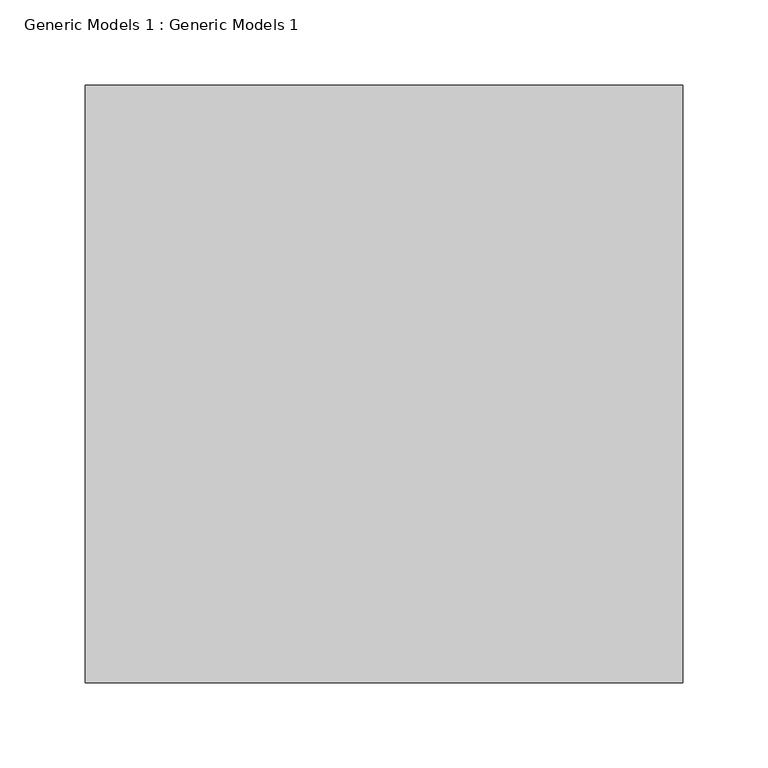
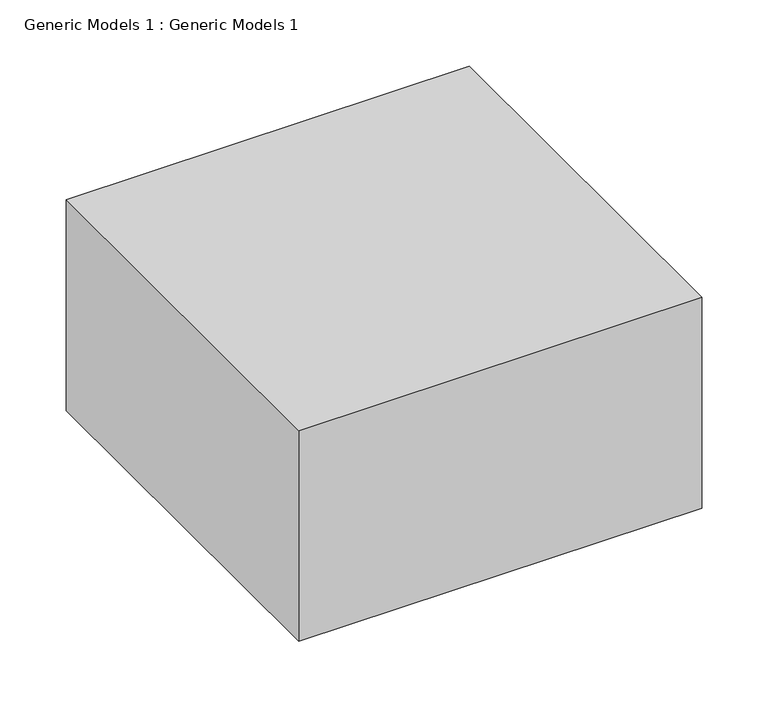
"""IFC4 building model written with IfcOpenShell, lengths in millimetres: proxy geometry, Generic Models 1 : Generic Models 1."""

from ifc_helpers import new_model, si_unit, frame, origin, place, context, project, spatial, polyline, outline, extrude, source, transform, mapped, element, save


def generic_models_1_generic_models_1_3ff43404(model_context):
    return source(origin(), model_context, "Body", "SweptSolid", [
        extrude(outline(polyline([(2982.5234079, 6181.6620874), (2982.5234079, 5831.6620874), (2632.5234079, 5831.6620874), (2632.5234079, 6181.6620874), (2982.5234079, 6181.6620874)])), frame((0.0, 0.0, 2379.3262124), z_axis=(0.0, 0.0, 1.0), x_axis=(1.0, 0.0, 0.0)), (0.0, 0.0, 1.0), 193.6737876),
    ])


if __name__ == "__main__":
    model = new_model("IFC4")
    model_context = context("Model", 3, world=origin())
    ifc_project = project(units=[si_unit("LENGTHUNIT", "METRE", prefix="MILLI")], contexts=[model_context])
    site = spatial("IfcSite", under=ifc_project)
    building = spatial("IfcBuilding", under=site)
    placement = place(None, origin())
    generic_models_1_generic_models_1_shape = generic_models_1_generic_models_1_3ff43404(model_context)
    element("IfcBuildingElementProxy", 1, Name="Generic Models 1 : Generic Models 1", ObjectType="Generic Models 1 : Generic Models 1", at=placement, inside=building, context=model_context, shape_type="MappedRepresentation", body=[
        mapped(generic_models_1_generic_models_1_shape, transform((0.0, 0.0, 0.0), x_axis=(1.0, 0.0, 0.0), y_axis=(0.0, 1.0, 0.0), z_axis=(0.0, 0.0, 1.0))),
    ])
    save(model, "model.ifc")
